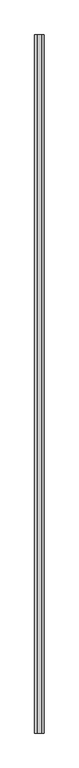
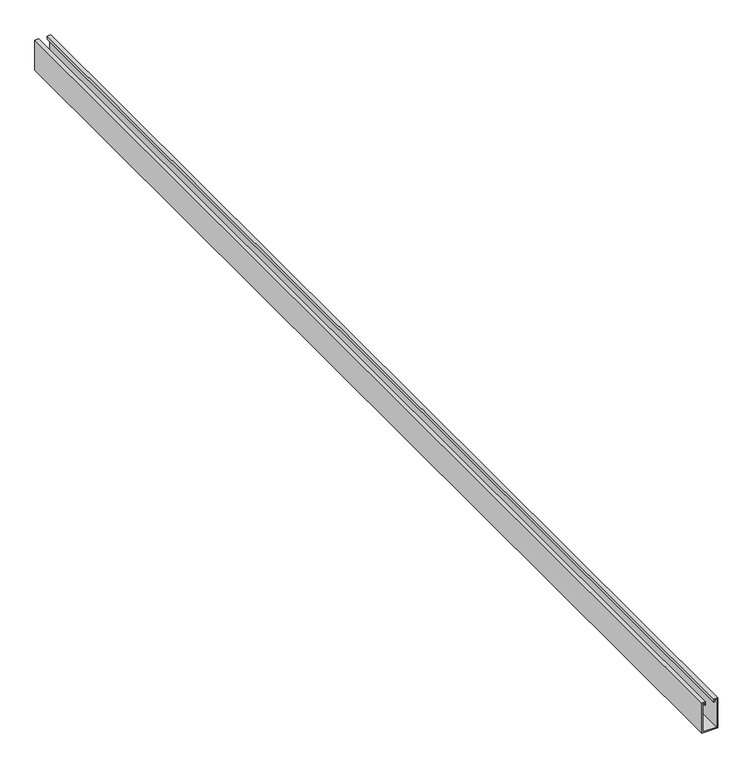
"""IFC4 building model written with IfcOpenShell, lengths in millimetres: proxy geometry, P41_Profile-Basorfix : Basorfix P41 41x82x2.5  D14 3M GC."""

from ifc_helpers import new_model, si_unit, frame, origin, place, context, project, spatial, polyline, outline, extrude, source, transform, mapped, element, save


def generic_models_f0572bc3(model_context):
    return source(origin(), model_context, "Body", "SweptSolid", [
        extrude(outline(polyline([(82.0, -20.5), (0.0, -20.5), (0.0, 20.5), (82.0, 20.5), (82.0, 11.0), (73.5, 11.0), (73.5, 13.5), (79.5, 13.5), (79.5, 18.0), (2.5, 18.0), (2.5, -18.0), (79.5, -18.0), (79.5, -13.5), (73.5, -13.5), (73.5, -11.0), (82.0, -11.0), (82.0, -20.5)])), frame((0.0, -1500.0, 0.0), z_axis=(0.0, 1.0, 0.0), x_axis=(0.0, 0.0, 1.0)), (0.0, 0.0, 1.0), 3000.0),
    ])


if __name__ == "__main__":
    model = new_model("IFC4")
    model_context = context("Model", 3, world=origin())
    ifc_project = project(units=[si_unit("LENGTHUNIT", "METRE", prefix="MILLI")], contexts=[model_context])
    site = spatial("IfcSite", under=ifc_project)
    building = spatial("IfcBuilding", under=site)
    placement = place(None, origin())
    generic_models_shape = generic_models_f0572bc3(model_context)
    element("IfcBuildingElementProxy", 1, Name="P41_Profile-Basorfix : Basorfix P41 41x82x2.5  D14 3M GC", ObjectType="P41_Profile-Basorfix : Basorfix P41 41x82x2.5  D14 3M GC", at=placement, inside=building, context=model_context, shape_type="MappedRepresentation", body=[
        mapped(generic_models_shape, transform((0.0, 0.0, 0.0), x_axis=(1.0, 0.0, 0.0), y_axis=(0.0, 1.0, 0.0), z_axis=(0.0, 0.0, 1.0))),
    ])
    save(model, "model.ifc")
